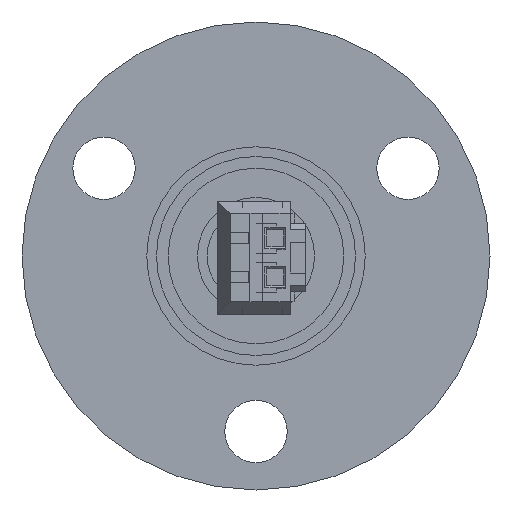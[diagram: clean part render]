
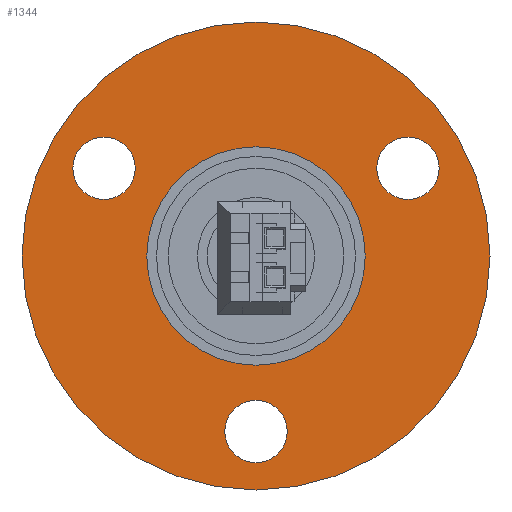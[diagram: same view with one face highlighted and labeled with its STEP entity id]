
A CAD part, front view. The second image highlights one B-rep face of the part: STEP entity #1344.
In plain terms, the highlighted planar face has unit normal (0, -1, 0).
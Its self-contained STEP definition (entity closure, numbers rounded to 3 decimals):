
#355=CARTESIAN_POINT('',(0.,0.,0.));
#356=DIRECTION('',(0.,-1.,0.));
#357=DIRECTION('',(-1.,0.,0.));
#358=AXIS2_PLACEMENT_3D('',#355,#356,#357);
#360=CARTESIAN_POINT('',(0.,0.,0.));
#361=DIRECTION('',(0.,-1.,0.));
#362=DIRECTION('',(1.,0.,0.));
#363=AXIS2_PLACEMENT_3D('',#360,#361,#362);
#365=CARTESIAN_POINT('',(0.,0.,-9.));
#366=DIRECTION('',(0.,1.,0.));
#367=DIRECTION('',(1.,0.,0.));
#368=AXIS2_PLACEMENT_3D('',#365,#366,#367);
#370=CARTESIAN_POINT('',(0.,0.,-9.));
#371=DIRECTION('',(0.,1.,0.));
#372=DIRECTION('',(-1.,0.,0.));
#373=AXIS2_PLACEMENT_3D('',#370,#371,#372);
#375=CARTESIAN_POINT('',(7.794,0.,4.5));
#376=DIRECTION('',(0.,1.,0.));
#377=DIRECTION('',(-0.5,0.,0.866));
#378=AXIS2_PLACEMENT_3D('',#375,#376,#377);
#380=CARTESIAN_POINT('',(7.794,0.,4.5));
#381=DIRECTION('',(0.,1.,0.));
#382=DIRECTION('',(0.5,0.,-0.866));
#383=AXIS2_PLACEMENT_3D('',#380,#381,#382);
#385=CARTESIAN_POINT('',(-7.794,0.,4.5));
#386=DIRECTION('',(0.,1.,0.));
#387=DIRECTION('',(-0.5,0.,-0.866));
#388=AXIS2_PLACEMENT_3D('',#385,#386,#387);
#390=CARTESIAN_POINT('',(-7.794,0.,4.5));
#391=DIRECTION('',(0.,1.,0.));
#392=DIRECTION('',(0.5,0.,0.866));
#393=AXIS2_PLACEMENT_3D('',#390,#391,#392);
#405=CARTESIAN_POINT('',(0.,0.,0.));
#406=DIRECTION('',(0.,-1.,0.));
#407=DIRECTION('',(0.,0.,1.));
#408=AXIS2_PLACEMENT_3D('',#405,#406,#407);
#410=CARTESIAN_POINT('',(0.,0.,0.));
#411=DIRECTION('',(0.,-1.,0.));
#412=DIRECTION('',(0.,0.,-1.));
#413=AXIS2_PLACEMENT_3D('',#410,#411,#412);
#1181=CARTESIAN_POINT('',(-12.,0.,0.));
#1182=CARTESIAN_POINT('',(12.,0.,0.));
#1183=VERTEX_POINT('',#1181);
#1184=VERTEX_POINT('',#1182);
#1193=CARTESIAN_POINT('',(1.6,0.,-9.));
#1194=CARTESIAN_POINT('',(-1.6,0.,-9.));
#1195=VERTEX_POINT('',#1193);
#1196=VERTEX_POINT('',#1194);
#1201=CARTESIAN_POINT('',(6.994,0.,5.886));
#1202=CARTESIAN_POINT('',(8.594,0.,3.114));
#1203=VERTEX_POINT('',#1201);
#1204=VERTEX_POINT('',#1202);
#1209=CARTESIAN_POINT('',(-8.594,0.,3.114));
#1210=CARTESIAN_POINT('',(-6.994,0.,5.886));
#1211=VERTEX_POINT('',#1209);
#1212=VERTEX_POINT('',#1210);
#1233=CARTESIAN_POINT('',(0.,0.,5.6));
#1234=CARTESIAN_POINT('',(0.,0.,-5.6));
#1235=VERTEX_POINT('',#1233);
#1236=VERTEX_POINT('',#1234);
#1309=CARTESIAN_POINT('',(0.,0.,0.));
#1310=DIRECTION('',(0.,1.,0.));
#1311=DIRECTION('',(1.,0.,0.));
#1312=AXIS2_PLACEMENT_3D('',#1309,#1310,#1311);
#1313=PLANE('',#1312);
#1315=ORIENTED_EDGE('',*,*,#1314,.F.);
#1317=ORIENTED_EDGE('',*,*,#1316,.F.);
#1318=EDGE_LOOP('',(#1315,#1317));
#1319=FACE_OUTER_BOUND('',#1318,.F.);
#1321=ORIENTED_EDGE('',*,*,#1320,.F.);
#1323=ORIENTED_EDGE('',*,*,#1322,.F.);
#1324=EDGE_LOOP('',(#1321,#1323));
#1325=FACE_BOUND('',#1324,.F.);
#1327=ORIENTED_EDGE('',*,*,#1326,.F.);
#1329=ORIENTED_EDGE('',*,*,#1328,.F.);
#1330=EDGE_LOOP('',(#1327,#1329));
#1331=FACE_BOUND('',#1330,.F.);
#1333=ORIENTED_EDGE('',*,*,#1332,.F.);
#1335=ORIENTED_EDGE('',*,*,#1334,.F.);
#1336=EDGE_LOOP('',(#1333,#1335));
#1337=FACE_BOUND('',#1336,.F.);
#1339=ORIENTED_EDGE('',*,*,#1338,.T.);
#1341=ORIENTED_EDGE('',*,*,#1340,.T.);
#1342=EDGE_LOOP('',(#1339,#1341));
#1343=FACE_BOUND('',#1342,.F.);
#1344=ADVANCED_FACE('',(#1319,#1325,#1331,#1337,#1343),#1313,.F.);
#359=CIRCLE('',#358,12.);
#364=CIRCLE('',#363,12.);
#369=CIRCLE('',#368,1.6);
#374=CIRCLE('',#373,1.6);
#379=CIRCLE('',#378,1.6);
#384=CIRCLE('',#383,1.6);
#389=CIRCLE('',#388,1.6);
#394=CIRCLE('',#393,1.6);
#409=CIRCLE('',#408,5.6);
#414=CIRCLE('',#413,5.6);
#1314=EDGE_CURVE('',#1183,#1184,#359,.T.);
#1316=EDGE_CURVE('',#1184,#1183,#364,.T.);
#1320=EDGE_CURVE('',#1195,#1196,#369,.T.);
#1322=EDGE_CURVE('',#1196,#1195,#374,.T.);
#1326=EDGE_CURVE('',#1203,#1204,#379,.T.);
#1328=EDGE_CURVE('',#1204,#1203,#384,.T.);
#1332=EDGE_CURVE('',#1211,#1212,#389,.T.);
#1334=EDGE_CURVE('',#1212,#1211,#394,.T.);
#1338=EDGE_CURVE('',#1235,#1236,#409,.T.);
#1340=EDGE_CURVE('',#1236,#1235,#414,.T.);
